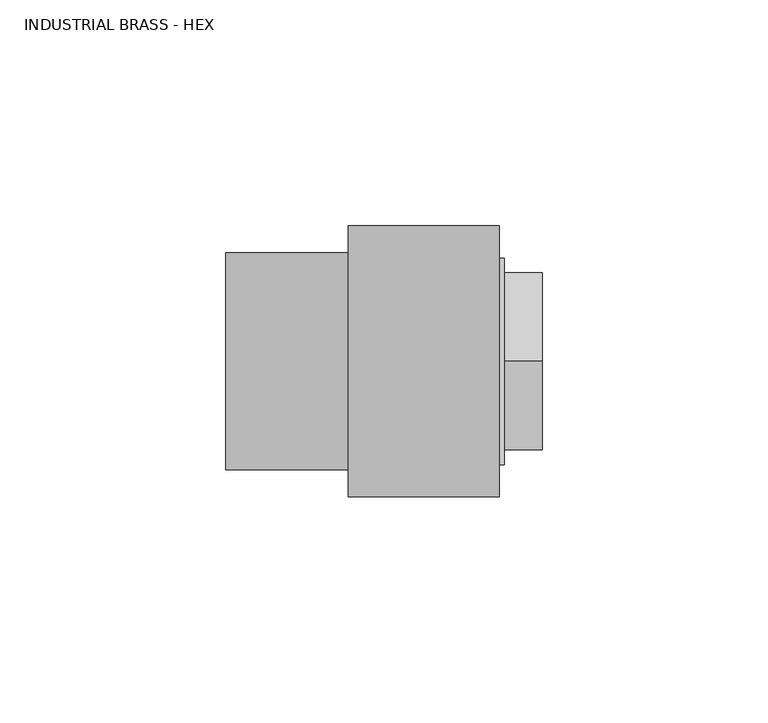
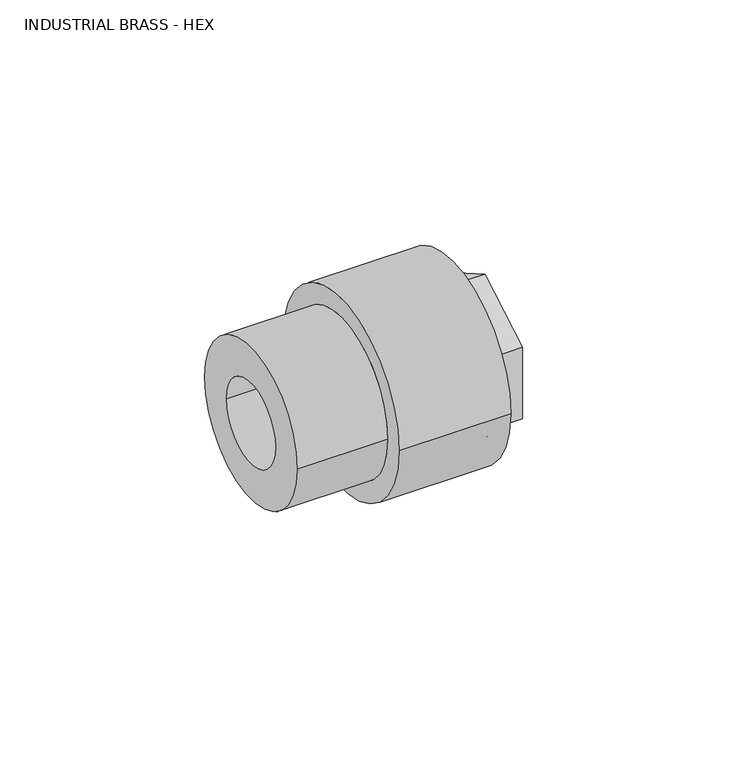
"""IFC4 building model written with IfcOpenShell, lengths in millimetres: pipe fitting geometry, Aquatherm - Fusion Outlet Transition Female : INDUSTRIAL BRASS - HEX."""

import ifcopenshell
import ifcopenshell.guid

model = None  # the IFC model being written
_history = None  # IfcOwnerHistory: only IFC2X3 demands one
_inside = {}  # id of a spatial element -> (the spatial element, [elements in it])
_under = {}  # id of a project, library or spatial element -> (it, [spatial elements below it])
_declared = {}  # id of a project -> (the project, [libraries it declares])
_typed = {}  # id of a type object -> (the type object, [elements of that type])
_made_of = {}  # id of a material, layer set ... -> (it, [elements and type objects made of it])


def new_model(schema):
    """Start an empty IFC model of exactly this schema.

    Asked for "IFC4X3", IfcOpenShell would pick the latest addendum, in which some entities
    have other attributes; the version numbers below select the first issue.
    IFC2X3 requires an IfcOwnerHistory on every rooted entity: one is made here for all.
    """
    global model, _history
    if schema == "IFC4X3":
        model = ifcopenshell.file(schema_version=(4, 3, 0, 0))
    else:
        model = ifcopenshell.file(schema=schema)
    _inside.clear()
    _under.clear()
    _declared.clear()
    _typed.clear()
    _made_of.clear()
    _history = None
    if model.schema == "IFC2X3":
        org = make("IfcOrganization", Name="unknown")
        user = make(
            "IfcPersonAndOrganization",
            ThePerson=make("IfcPerson", FamilyName="unknown"),
            TheOrganization=org,
        )
        app = make(
            "IfcApplication",
            ApplicationDeveloper=org,
            Version="unknown",
            ApplicationFullName="unknown",
            ApplicationIdentifier="unknown",
        )
        _history = make(
            "IfcOwnerHistory",
            OwningUser=user,
            OwningApplication=app,
            ChangeAction="ADDED",
            CreationDate=0,
        )
    return model


def make(cls, **values):
    """One entity of the class cls with the attributes given. An attribute that is None is left unset."""
    return model.create_entity(
        cls, **{name: value for name, value in values.items() if value is not None}
    )


def rooted(cls, **values):
    """An entity with a GlobalId (a new one), such as an element, a storey or a relation."""
    return make(cls, GlobalId=ifcopenshell.guid.new(), OwnerHistory=_history, **values)


def si_unit(unit_type, name, prefix=None):
    """IfcSIUnit, for example si_unit("LENGTHUNIT", "METRE", prefix="MILLI")."""
    return make("IfcSIUnit", UnitType=unit_type, Prefix=prefix, Name=name)


def assignment(units):
    """IfcUnitAssignment: the units of a project."""
    return None if units is None else make("IfcUnitAssignment", Units=units)


def point(xyz):
    """IfcCartesianPoint."""
    return None if xyz is None else make("IfcCartesianPoint", Coordinates=xyz)


def direction(xyz):
    """IfcDirection."""
    return None if xyz is None else make("IfcDirection", DirectionRatios=xyz)


def frame(location, z_axis=None, x_axis=None):
    """IfcAxis2Placement3D, a coordinate frame: its origin and axes. An axis left out is left unset."""
    return make(
        "IfcAxis2Placement3D",
        Location=point(location),
        Axis=direction(z_axis),
        RefDirection=direction(x_axis),
    )


def origin():
    """The frame at (0, 0, 0) with its axes left unset."""
    return frame((0.0, 0.0, 0.0))


def place(relative_to, where):
    """IfcLocalPlacement: puts the frame where relative to a parent placement (None: the world)."""
    return make(
        "IfcLocalPlacement", PlacementRelTo=relative_to, RelativePlacement=where
    )


def context(
    kind, dimensions, precision=None, world=None, true_north=None, identifier=None
):
    """IfcGeometricRepresentationContext, for example the 3D "Model" context."""
    return make(
        "IfcGeometricRepresentationContext",
        ContextIdentifier=identifier,
        ContextType=kind,
        CoordinateSpaceDimension=dimensions,
        Precision=precision,
        WorldCoordinateSystem=world,
        TrueNorth=true_north,
    )


def project(units=None, contexts=None):
    """IfcProject with its units and contexts."""
    return rooted(
        "IfcProject",
        Name="project",
        RepresentationContexts=contexts,
        UnitsInContext=assignment(units),
    )


def spatial(cls, under=None, at=None, **own):
    """A site, building, storey or space (cls), placed at a placement, below another one or the project."""
    s = rooted(cls, ObjectPlacement=at, **own)
    if under is not None:
        _under.setdefault(under.id(), (under, []))[1].append(s)
    return s


def polyline(points):
    """IfcPolyline through the points."""
    return make("IfcPolyline", Points=[point(p) for p in points])


def circle_curve(where, radius):
    """IfcCircle in the frame where."""
    return make("IfcCircle", Position=where, Radius=radius)


def shape(context_of_items, identifier, shape_type, items):
    """IfcShapeRepresentation: the items that make up one representation, for example the "Body"."""
    return make(
        "IfcShapeRepresentation",
        ContextOfItems=context_of_items,
        RepresentationIdentifier=identifier,
        RepresentationType=shape_type,
        Items=items,
    )


def source(mapping_origin, context_of_items, identifier, shape_type, items):
    """IfcRepresentationMap: a shape defined once, which mapped items show again and again."""
    return make(
        "IfcRepresentationMap",
        MappingOrigin=mapping_origin,
        MappedRepresentation=shape(context_of_items, identifier, shape_type, items),
    )


def transform(
    local_origin,
    x_axis=None,
    y_axis=None,
    z_axis=None,
    scale=None,
    scale2=None,
    scale3=None,
    uniform=True,
):
    """IfcCartesianTransformationOperator3D, or its non-uniform kind. x_axis, y_axis, z_axis: its Axis1, 2, 3."""
    if uniform:
        return make(
            "IfcCartesianTransformationOperator3D",
            Axis1=direction(x_axis),
            Axis2=direction(y_axis),
            LocalOrigin=point(local_origin),
            Scale=scale,
            Axis3=direction(z_axis),
        )
    return make(
        "IfcCartesianTransformationOperator3DnonUniform",
        Axis1=direction(x_axis),
        Axis2=direction(y_axis),
        LocalOrigin=point(local_origin),
        Scale=scale,
        Axis3=direction(z_axis),
        Scale2=scale2,
        Scale3=scale3,
    )


def mapped(mapping_source, mapping_target):
    """IfcMappedItem: shows the shape of a source again, moved by a transform."""
    return make(
        "IfcMappedItem", MappingSource=mapping_source, MappingTarget=mapping_target
    )


def made_of(thing, what):
    """Note that an element or type object is made of a material, layer set ...; save() writes the relation."""
    if what is not None:
        _made_of.setdefault(what.id(), (what, []))[1].append(thing)
    return thing


def element(
    cls,
    number,
    at=None,
    inside=None,
    cuts=None,
    type_object=None,
    material=None,
    context=None,
    identifier="Body",
    shape_type=None,
    held_by="IfcProductDefinitionShape",
    body=None,
    shapes=None,
    **own,
):
    """One element of the class cls, such as IfcWall. Its Tag is "e" and its number.

    at: its placement. inside: the storey or other place that contains it. cuts: it is an
    opening in that element (IfcRelVoidsElement). A single representation is given by context,
    identifier, shape_type and body (its items); several are given by shapes. held_by: the class
    of the entity that holds the representations. save() writes the other relations.
    """
    e = rooted(cls, Tag="e%d" % number, ObjectPlacement=at, **own)
    if body is not None:
        shapes = [shape(context, identifier, shape_type, body)]
    if shapes is not None:
        e.Representation = make(held_by, Representations=shapes)
    if inside is not None:
        _inside.setdefault(inside.id(), (inside, []))[1].append(e)
    if cuts is not None:
        rooted(
            "IfcRelVoidsElement", RelatingBuildingElement=cuts, RelatedOpeningElement=e
        )
    if type_object is not None:
        _typed.setdefault(type_object.id(), (type_object, []))[1].append(e)
    return made_of(e, material)


def aggregate(whole, parts):
    """IfcRelAggregates: a whole, such as a stair, and the parts it consists of."""
    return rooted("IfcRelAggregates", RelatingObject=whole, RelatedObjects=parts)


def save(model, path):
    """Write the relations noted so far, then the file.

    IfcRelAggregates (storeys below a building ...), IfcRelContainedInSpatialStructure (elements
    in a storey), IfcRelDefinesByType, IfcRelAssociatesMaterial and IfcRelDeclares: one each for
    every whole, place, type object, material and project.
    """
    for whole, parts in _under.values():
        aggregate(whole, parts)
    for where, things in _inside.values():
        rooted(
            "IfcRelContainedInSpatialStructure",
            RelatedElements=things,
            RelatingStructure=where,
        )
    for kind, things in _typed.values():
        rooted("IfcRelDefinesByType", RelatedObjects=things, RelatingType=kind)
    for what, things in _made_of.values():
        rooted("IfcRelAssociatesMaterial", RelatedObjects=things, RelatingMaterial=what)
    for by, libraries in _declared.values():
        rooted("IfcRelDeclares", RelatingContext=by, RelatedDefinitions=libraries)
    model.write(path)


def plane_surface(at):
    """IfcPlane: the flat surface through the origin of the frame at, square to its z axis."""
    return make("IfcPlane", Position=at)


def cylinder_surface(at, radius):
    """IfcCylindricalSurface: all points at the distance radius from the z axis of the frame at."""
    return make("IfcCylindricalSurface", Position=at, Radius=radius)


def revolved_surface(curve, axis_point, axis_direction):
    """IfcSurfaceOfRevolution: the curve turned about the line through axis_point along axis_direction."""
    return make(
        "IfcSurfaceOfRevolution",
        SweptCurve=make("IfcArbitraryOpenProfileDef", ProfileType="CURVE", Curve=curve),
        AxisPosition=make("IfcAxis1Placement", Location=point(axis_point), Axis=direction(axis_direction)),
    )


def advanced_brep(points, edges, surfaces, faces):
    """IfcAdvancedBrep: a solid bounded by faces that lie on surfaces and meet in shared edges.

    An edge is (start, end): straight between two places in points (the first is 0);
    or (start, end, curve); or (start, end, curve, False) where it runs against its curve.
    A face is (place in surfaces, loops), or (place, loops, False) where it looks against
    its surface's normal. A loop lists edges by number (the first is 1), with a minus sign
    where the edge is run from its end to its start. The first loop is the outer one.
    """
    corners = [point(p) for p in points]
    vertices = [make("IfcVertexPoint", VertexGeometry=c) for c in corners]
    made = []
    for start, end, *more in edges:
        made.append(
            make(
                "IfcEdgeCurve",
                EdgeStart=vertices[start],
                EdgeEnd=vertices[end],
                EdgeGeometry=more[0] if more else make("IfcPolyline", Points=[corners[start], corners[end]]),
                SameSense=more[1] if len(more) > 1 else True,
            )
        )
    hull = []
    for where, loops, *sense in faces:
        bounds = []
        for j, loop in enumerate(loops):
            ring = [make("IfcOrientedEdge", EdgeElement=made[abs(k) - 1], Orientation=k > 0) for k in loop]
            bounds.append(
                make(
                    "IfcFaceOuterBound" if j == 0 else "IfcFaceBound",
                    Bound=make("IfcEdgeLoop", EdgeList=ring),
                    Orientation=True,
                )
            )
        hull.append(make("IfcAdvancedFace", Bounds=bounds, FaceSurface=surfaces[where], SameSense=sense[0] if sense else True))
    return make("IfcAdvancedBrep", Outer=make("IfcClosedShell", CfsFaces=hull))


def industrial_brass_hex_5c7317bd(model_context):
    return source(origin(), model_context, "Body", "AdvancedBrep", [
        advanced_brep(
        [(25.4635, -15.875, 0.0), (40.3463125, -15.875, 0.0), (40.3463125, 15.875, 0.0), (25.4635, 15.875, 0.0), (25.4635, 16.66875, 0.0), (25.4635, -16.66875, 0.0), (22.2885, 16.66875, 0.0), (22.2885, -16.66875, 0.0), (22.2885, 12.7, 0.0), (22.2885, -12.7, 0.0), (19.1135, 12.7, 0.0), (19.1135, -12.7, 0.0), (19.1135, 24.003, 0.0), (19.1135, -24.003, 0.0), (33.401, 24.003, 0.0), (33.401, -24.003, 0.0), (42.926, -16.66875, 0.0), (42.926, -19.558, 0.0), (42.926, -19.558, -11.2918166), (42.926, 0.0, -22.5836331), (42.926, 19.558, -11.2918166), (42.926, 19.558, 0.0), (42.926, 16.66875, 0.0), (42.926, 19.558, 11.2918166), (42.926, 0.0, 22.5836331), (42.926, -19.558, 11.2918166), (33.401, 22.86, 0.0), (33.401, -22.86, 0.0), (34.591625, 22.86, 0.0), (34.591625, -22.86, 0.0), (34.591625, 0.0, -22.5836331), (34.591625, -19.558, -11.2918166), (34.591625, -19.558, 11.2918166), (34.591625, 0.0, 22.5836331), (34.591625, 19.558, 11.2918166), (34.591625, 19.558, -11.2918166)],
        [
            (0, 1),
            (1, 2, circle_curve(frame((40.3463125, 0.0, 0.0), z_axis=(1.0, 0.0, 0.0), x_axis=(0.0, 1.0, 0.0)), 15.875)),
            (2, 3),
            (3, 0, circle_curve(frame((25.4635, 0.0, 0.0), z_axis=(-1.0, 0.0, 0.0), x_axis=(0.0, 1.0, 0.0)), 15.875)),
            (2, 1, circle_curve(frame((40.3463125, 0.0, 0.0), z_axis=(1.0, 0.0, 0.0), x_axis=(0.0, 1.0, 0.0)), 15.875)),
            (0, 3, circle_curve(frame((25.4635, 0.0, 0.0), z_axis=(-1.0, 0.0, 0.0), x_axis=(0.0, 1.0, 0.0)), 15.875)),
            (3, 4),
            (4, 5, circle_curve(frame((25.4635, 0.0, 0.0), z_axis=(-1.0, 0.0, 0.0), x_axis=(0.0, 1.0, 0.0)), 16.66875)),
            (5, 0),
            (5, 4, circle_curve(frame((25.4635, 0.0, 0.0), z_axis=(-1.0, 0.0, 0.0), x_axis=(0.0, 1.0, 0.0)), 16.66875)),
            (4, 6),
            (6, 7, circle_curve(frame((22.2885, 0.0, 0.0), z_axis=(-1.0, 0.0, 0.0), x_axis=(0.0, 1.0, 0.0)), 16.66875)),
            (7, 5),
            (7, 6, circle_curve(frame((22.2885, 0.0, 0.0), z_axis=(-1.0, 0.0, 0.0), x_axis=(0.0, 1.0, 0.0)), 16.66875)),
            (6, 8),
            (8, 9, circle_curve(frame((22.2885, 0.0, 0.0), z_axis=(-1.0, 0.0, 0.0), x_axis=(0.0, 1.0, 0.0)), 12.7)),
            (9, 7),
            (9, 8, circle_curve(frame((22.2885, 0.0, 0.0), z_axis=(-1.0, 0.0, 0.0), x_axis=(0.0, 1.0, 0.0)), 12.7)),
            (8, 10),
            (10, 11, circle_curve(frame((19.1135, 0.0, 0.0), z_axis=(-1.0, 0.0, 0.0), x_axis=(0.0, 1.0, 0.0)), 12.7)),
            (11, 9),
            (11, 10, circle_curve(frame((19.1135, 0.0, 0.0), z_axis=(-1.0, 0.0, 0.0), x_axis=(0.0, 1.0, 0.0)), 12.7)),
            (10, 12),
            (12, 13, circle_curve(frame((19.1135, 0.0, 0.0), z_axis=(-1.0, 0.0, 0.0), x_axis=(0.0, 1.0, 0.0)), 24.003)),
            (13, 11),
            (13, 12, circle_curve(frame((19.1135, 0.0, 0.0), z_axis=(-1.0, 0.0, 0.0), x_axis=(0.0, 1.0, 0.0)), 24.003)),
            (12, 14),
            (14, 15, circle_curve(frame((33.401, 0.0, 0.0), z_axis=(-1.0, 0.0, 0.0), x_axis=(0.0, 1.0, 0.0)), 24.003)),
            (15, 13),
            (15, 14, circle_curve(frame((33.401, 0.0, 0.0), z_axis=(-1.0, 0.0, 0.0), x_axis=(0.0, 1.0, 0.0)), 24.003)),
            (16, 17),
            (17, 18),
            (18, 19),
            (19, 20),
            (20, 21),
            (21, 22),
            (22, 16, circle_curve(frame((42.926, 0.0, 0.0), z_axis=(-1.0, 0.0, 0.0), x_axis=(0.0, 1.0, 0.0)), 16.66875)),
            (21, 23),
            (23, 24),
            (24, 25),
            (25, 17),
            (16, 22, circle_curve(frame((42.926, 0.0, 0.0), z_axis=(-1.0, 0.0, 0.0), x_axis=(0.0, 1.0, 0.0)), 16.66875)),
            (1, 16),
            (22, 2),
            (14, 26),
            (26, 27, circle_curve(frame((33.401, 0.0, 0.0), z_axis=(-1.0, 0.0, 0.0), x_axis=(0.0, 1.0, 0.0)), 22.86)),
            (27, 15),
            (27, 26, circle_curve(frame((33.401, 0.0, 0.0), z_axis=(-1.0, 0.0, 0.0), x_axis=(0.0, 1.0, 0.0)), 22.86)),
            (26, 28),
            (28, 29, circle_curve(frame((34.591625, 0.0, 0.0), z_axis=(-1.0, 0.0, 0.0), x_axis=(0.0, 1.0, 0.0)), 22.86)),
            (29, 27),
            (29, 28, circle_curve(frame((34.591625, 0.0, 0.0), z_axis=(-1.0, 0.0, 0.0), x_axis=(0.0, 1.0, 0.0)), 22.86)),
            (30, 31),
            (31, 32),
            (32, 33),
            (33, 34),
            (34, 35),
            (35, 30),
            (30, 19),
            (18, 31),
            (25, 32),
            (24, 33),
            (23, 34),
            (20, 35),
        ],
        [
            revolved_surface(polyline([(40.3463125, 15.875, 0.0), (25.4635, 15.875, 0.0)]), (44.7592251, 0.0, 0.0), (1.0, 0.0, 0.0)),
            plane_surface(frame((25.4635, 0.0, 0.0), z_axis=(-1.0, 0.0, 0.0), x_axis=(0.0, 1.0, 0.0))),
            revolved_surface(polyline([(25.4635, 16.66875, 0.0), (22.2885, 16.66875, 0.0)]), (44.7592251, 0.0, 0.0), (1.0, 0.0, 0.0)),
            plane_surface(frame((22.2885, 0.0, 0.0), z_axis=(1.0, 0.0, 0.0), x_axis=(0.0, 1.0, 0.0))),
            revolved_surface(polyline([(22.2885, 12.7, 0.0), (19.1135, 12.7, 0.0)]), (44.7592251, 0.0, 0.0), (1.0, 0.0, 0.0)),
            plane_surface(frame((19.1135, 0.0, 0.0), z_axis=(-1.0, 0.0, 0.0), x_axis=(0.0, 1.0, 0.0))),
            cylinder_surface(frame((44.7592251, 0.0, 0.0), z_axis=(1.0, 0.0, 0.0), x_axis=(0.0, 1.0, 0.0)), 24.003),
            plane_surface(frame((42.926, 0.0, 0.0), z_axis=(1.0, 0.0, 0.0), x_axis=(0.0, 1.0, 0.0))),
            revolved_surface(polyline([(42.926, 16.66875, 0.0), (40.3463125, 15.875, 0.0)]), (44.7592251, 0.0, 0.0), (1.0, 0.0, 0.0)),
            plane_surface(frame((33.401, 0.0, 0.0), z_axis=(1.0, 0.0, 0.0), x_axis=(0.0, 1.0, 0.0))),
            cylinder_surface(frame((44.7592251, 0.0, 0.0), z_axis=(1.0, 0.0, 0.0), x_axis=(0.0, 1.0, 0.0)), 22.86),
            plane_surface(frame((34.591625, -19.558, -11.2918166), z_axis=(1.0000000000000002, 0.0, 0.0), x_axis=(0.0, -0.8660254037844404, 0.4999999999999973))),
            plane_surface(frame((34.591625, 0.0, -22.5836331), z_axis=(0.0, -0.4999999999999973, -0.8660254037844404), x_axis=(1.0, 0.0, 0.0))),
            plane_surface(frame((34.591625, -19.558, -11.2918166), z_axis=(0.0, -1.0, 0.0), x_axis=(1.0, 0.0, 0.0))),
            plane_surface(frame((34.591625, -19.558, 11.2918166), z_axis=(0.0, -0.5000000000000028, 0.8660254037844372), x_axis=(1.0, 0.0, 0.0))),
            plane_surface(frame((34.591625, 0.0, 22.5836331), z_axis=(0.0, 0.49999999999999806, 0.8660254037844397), x_axis=(1.0, 0.0, 0.0))),
            plane_surface(frame((34.591625, 19.558, 11.2918166), z_axis=(0.0, 1.0, 0.0), x_axis=(1.0, 0.0, 0.0))),
            plane_surface(frame((34.591625, 19.558, -11.2918166), z_axis=(0.0, 0.5000000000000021, -0.8660254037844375), x_axis=(1.0, 0.0, 0.0))),
        ],
        [
            (0, [[1, 2, 3, 4]]),
            (0, [[5, -1, 6, -3]]),
            (1, [[7, 8, 9, -4]]),
            (1, [[-9, 10, -7, -6]]),
            (2, [[11, 12, 13, -8]]),
            (2, [[-13, 14, -11, -10]]),
            (3, [[15, 16, 17, -12]]),
            (3, [[-17, 18, -15, -14]]),
            (4, [[19, 20, 21, -16]]),
            (4, [[-21, 22, -19, -18]]),
            (5, [[23, 24, 25, -20]]),
            (5, [[-25, 26, -23, -22]]),
            (6, [[27, 28, 29, -24]]),
            (6, [[-29, 30, -27, -26]]),
            (7, [[31, 32, 33, 34, 35, 36, 37]]),
            (7, [[-36, 38, 39, 40, 41, -31, 42]]),
            (8, [[43, -37, 44, -2]]),
            (8, [[-44, -42, -43, -5]]),
            (9, [[45, 46, 47, -28]]),
            (9, [[-47, 48, -45, -30]]),
            (10, [[49, 50, 51, -46]]),
            (10, [[-51, 52, -49, -48]]),
            (11, [[-52, -50], [53, 54, 55, 56, 57, 58]]),
            (12, [[59, -33, 60, -53]]),
            (13, [[-60, -32, -41, 61, -54]]),
            (14, [[-61, -40, 62, -55]]),
            (15, [[-62, -39, 63, -56]]),
            (16, [[-63, -38, -35, 64, -57]]),
            (17, [[-64, -34, -59, -58]]),
        ],
    ),
        advanced_brep(
        [(-27.0475676, -24.003, 0.0), (-27.0475676, 24.003, 0.0), (-27.0475676, -12.7, 0.0), (-27.0475676, 12.7, 0.0), (19.1135, -24.003, 0.0), (19.1135, 24.003, 0.0), (19.1135, -12.7, 0.0), (19.1135, 12.7, 0.0), (0.0, 24.003, 0.0), (0.0, -24.003, 0.0), (33.401, -29.972, 0.0), (33.401, 29.972, 0.0), (33.401, -24.003, 0.0), (33.401, 24.003, 0.0), (0.0, -29.972, 0.0), (0.0, 29.972, 0.0)],
        [
            (0, 1, circle_curve(frame((-27.0475676, 0.0, 0.0), z_axis=(-1.0, 0.0, 0.0), x_axis=(0.0, 1.0, 0.0)), 24.003)),
            (1, 0, circle_curve(frame((-27.0475676, 0.0, 0.0), z_axis=(-1.0, 0.0, 0.0), x_axis=(0.0, 1.0, 0.0)), 24.003)),
            (2, 3, circle_curve(frame((-27.0475676, 0.0, 0.0), z_axis=(1.0, 0.0, 0.0), x_axis=(0.0, 1.0, 0.0)), 12.7)),
            (3, 2, circle_curve(frame((-27.0475676, 0.0, 0.0), z_axis=(1.0, 0.0, 0.0), x_axis=(0.0, 1.0, 0.0)), 12.7)),
            (4, 5, circle_curve(frame((19.1135, 0.0, 0.0), z_axis=(1.0, 0.0, 0.0), x_axis=(0.0, 1.0, 0.0)), 24.003)),
            (5, 4, circle_curve(frame((19.1135, 0.0, 0.0), z_axis=(1.0, 0.0, 0.0), x_axis=(0.0, 1.0, 0.0)), 24.003)),
            (6, 7, circle_curve(frame((19.1135, 0.0, 0.0), z_axis=(-1.0, 0.0, 0.0), x_axis=(0.0, 1.0, 0.0)), 12.7)),
            (7, 6, circle_curve(frame((19.1135, 0.0, 0.0), z_axis=(-1.0, 0.0, 0.0), x_axis=(0.0, 1.0, 0.0)), 12.7)),
            (3, 7),
            (6, 2),
            (1, 8),
            (8, 9, circle_curve(frame((0.0, 0.0, 0.0), z_axis=(-1.0, 0.0, 0.0), x_axis=(0.0, 1.0, 0.0)), 24.003)),
            (9, 0),
            (9, 8, circle_curve(frame((0.0, 0.0, 0.0), z_axis=(-1.0, 0.0, 0.0), x_axis=(0.0, 1.0, 0.0)), 24.003)),
            (10, 11, circle_curve(frame((33.401, 0.0, 0.0), z_axis=(1.0, 0.0, 0.0), x_axis=(0.0, 1.0, 0.0)), 29.972)),
            (11, 10, circle_curve(frame((33.401, 0.0, 0.0), z_axis=(1.0, 0.0, 0.0), x_axis=(0.0, 1.0, 0.0)), 29.972)),
            (12, 13, circle_curve(frame((33.401, 0.0, 0.0), z_axis=(-1.0, 0.0, 0.0), x_axis=(0.0, 1.0, 0.0)), 24.003)),
            (13, 12, circle_curve(frame((33.401, 0.0, 0.0), z_axis=(-1.0, 0.0, 0.0), x_axis=(0.0, 1.0, 0.0)), 24.003)),
            (14, 15, circle_curve(frame((0.0, 0.0, 0.0), z_axis=(-1.0, 0.0, 0.0), x_axis=(0.0, 1.0, 0.0)), 29.972)),
            (15, 14, circle_curve(frame((0.0, 0.0, 0.0), z_axis=(-1.0, 0.0, 0.0), x_axis=(0.0, 1.0, 0.0)), 29.972)),
            (12, 4),
            (5, 13),
            (10, 14),
            (15, 11),
        ],
        [
            plane_surface(frame((-27.0475676, 12.7, 0.0), z_axis=(-1.0, 0.0, 0.0), x_axis=(0.0, 0.0, -1.0))),
            plane_surface(frame((19.1135, 12.7, 0.0), z_axis=(1.0, 0.0, 0.0), x_axis=(0.0, 0.0, 1.0))),
            revolved_surface(polyline([(19.1135, 12.7, 0.0), (-27.047567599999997, 12.7, 0.0)]), (19.1135, 0.0, 0.0), (1.0, 0.0, 0.0)),
            cylinder_surface(frame((0.0, 0.0, 0.0), z_axis=(-1.0, 0.0, 0.0), x_axis=(0.0, 1.0, 0.0)), 24.003),
            plane_surface(frame((33.401, 24.003, 0.0), z_axis=(1.0, 0.0, 0.0), x_axis=(0.0, 0.0, 1.0))),
            plane_surface(frame((0.0, 24.003, 0.0), z_axis=(-1.0, 0.0, 0.0), x_axis=(0.0, 0.0, -1.0))),
            revolved_surface(polyline([(33.401, 24.003, 0.0), (19.1135, 24.003, 0.0)]), (33.401, 0.0, 0.0), (1.0, 0.0, 0.0)),
            cylinder_surface(frame((0.0, 0.0, 0.0), z_axis=(-1.0, 0.0, 0.0), x_axis=(0.0, 1.0, 0.0)), 29.972),
        ],
        [
            (0, [[1, 2], [3, 4]]),
            (1, [[5, 6], [7, 8]]),
            (2, [[9, -7, 10, -4]]),
            (2, [[-10, -8, -9, -3]]),
            (3, [[11, 12, 13, -2]]),
            (3, [[-13, 14, -11, -1]]),
            (4, [[15, 16], [17, 18]]),
            (5, [[19, 20], [-14, -12]]),
            (6, [[21, -6, 22, -17]]),
            (6, [[-22, -5, -21, -18]]),
            (7, [[23, -20, 24, -15]]),
            (7, [[-24, -19, -23, -16]]),
        ],
    ),
    ])


if __name__ == "__main__":
    model = new_model("IFC4")
    model_context = context("Model", 3, world=origin())
    ifc_project = project(units=[si_unit("LENGTHUNIT", "METRE", prefix="MILLI")], contexts=[model_context])
    site = spatial("IfcSite", under=ifc_project)
    building = spatial("IfcBuilding", under=site)
    placement = place(None, origin())
    industrial_brass_hex_shape = industrial_brass_hex_5c7317bd(model_context)
    element("IfcPipeFitting", 1, ObjectType="Aquatherm - Fusion Outlet Transition Female : INDUSTRIAL BRASS - HEX", at=placement, inside=building, context=model_context, shape_type="MappedRepresentation", body=[
        mapped(industrial_brass_hex_shape, transform((0.0, 0.0, 0.0), x_axis=(1.0, 0.0, 0.0), y_axis=(0.0, 1.0, 0.0), z_axis=(0.0, 0.0, 1.0))),
    ])
    save(model, "model.ifc")
